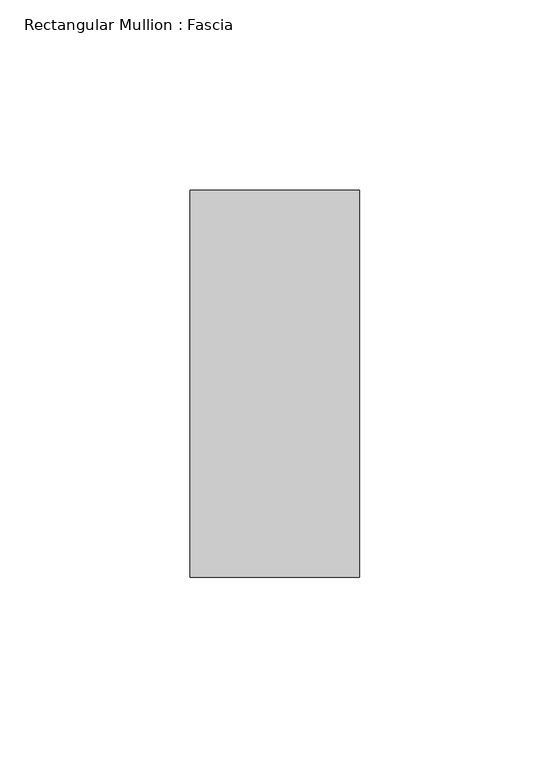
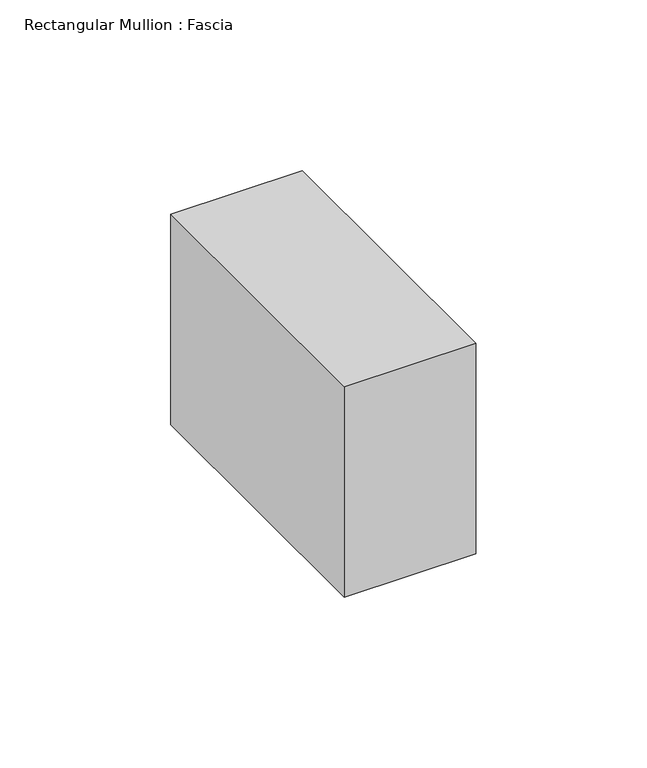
"""IFC4 building model written with IfcOpenShell, lengths in millimetres: member geometry, Rectangular Mullion : Fascia."""

from ifc_helpers import new_model, si_unit, frame, origin, place, context, project, spatial, polyline, outline, extrude, source, transform, mapped, element, save


def rectangular_mullion_fascia_b76e3948(model_context):
    return source(origin(), model_context, "Body", "SweptSolid", [
        extrude(outline(polyline([(0.0, 114.3), (0.0, 12.7), (-44.45, 12.7), (-44.45, 114.3), (0.0, 114.3)])), frame((0.0, 0.0, -75.2237918), z_axis=(0.0, 0.0, 1.0), x_axis=(1.0, 0.0, 0.0)), (0.0, 0.0, 1.0), 75.2237918),
    ])


if __name__ == "__main__":
    model = new_model("IFC4")
    model_context = context("Model", 3, world=origin())
    ifc_project = project(units=[si_unit("LENGTHUNIT", "METRE", prefix="MILLI")], contexts=[model_context])
    site = spatial("IfcSite", under=ifc_project)
    building = spatial("IfcBuilding", under=site)
    placement = place(None, origin())
    rectangular_mullion_fascia_shape = rectangular_mullion_fascia_b76e3948(model_context)
    element("IfcMember", 1, ObjectType="Rectangular Mullion : Fascia", at=placement, inside=building, context=model_context, shape_type="MappedRepresentation", body=[
        mapped(rectangular_mullion_fascia_shape, transform((0.0, 0.0, 0.0), x_axis=(1.0, 0.0, 0.0), y_axis=(0.0, 1.0, 0.0), z_axis=(0.0, 0.0, 1.0))),
    ])
    save(model, "model.ifc")
